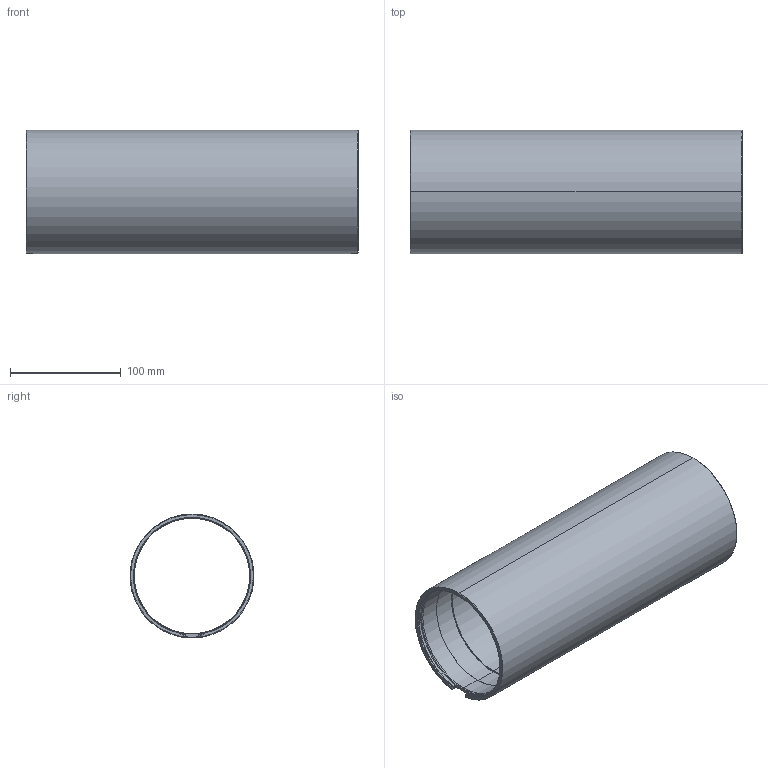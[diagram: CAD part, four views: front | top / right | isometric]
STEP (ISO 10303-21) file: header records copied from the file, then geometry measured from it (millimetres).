
FILE_DESCRIPTION (( 'STEP AP214' ), '1' );
FILE_NAME ('BR-100195-300_RevB.STEP', '2024-09-16T23:19:30', ( '' ), ( '' ), 'SwSTEP 2.0', 'SolidWorks 2024', '' );
FILE_SCHEMA (( 'AUTOMOTIVE_DESIGN' ));
Length unit declared in the file: millimetre
Products named in the file (1): BR-100195-300_RevB
Bounding box: 300 x 111.63 x 112 mm (x, y, z)
Volume: 381846.5 mm3; surface area: 207342.4 mm2
Topology: 1 solids, 1 shells, 94 faces, 240 edges, 150 vertices
Faces by surface type: cylinder 24, bspline 24, cone 18, plane 16, torus 12
Entity records: 5964 total; most frequent: CARTESIAN_POINT 3914, ORIENTED_EDGE 480, DIRECTION 342, EDGE_CURVE 240, VERTEX_POINT 150, AXIS2_PLACEMENT_3D 147, B_SPLINE_CURVE_WITH_KNOTS 112, EDGE_LOOP 98
